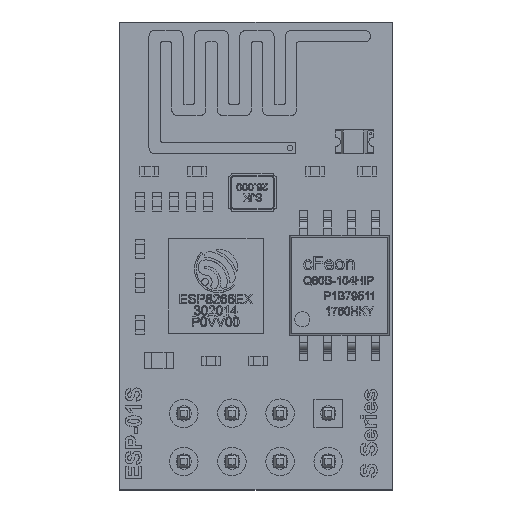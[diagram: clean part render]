
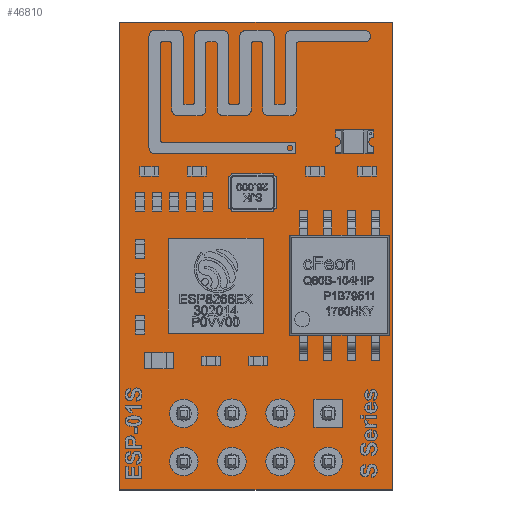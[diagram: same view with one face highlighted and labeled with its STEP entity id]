
A CAD part, top view. The second image highlights one B-rep face of the part: STEP entity #46810.
In plain terms, the highlighted planar face has unit normal (0, 0, 1).
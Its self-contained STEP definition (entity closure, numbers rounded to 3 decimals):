
#3326=FACE_BOUND('',#7650,.T.);
#3327=FACE_BOUND('',#7651,.T.);
#3328=FACE_BOUND('',#7652,.T.);
#3329=FACE_BOUND('',#7653,.T.);
#3330=FACE_BOUND('',#7654,.T.);
#3331=FACE_BOUND('',#7655,.T.);
#3332=FACE_BOUND('',#7656,.T.);
#3333=FACE_BOUND('',#7657,.T.);
#3434=CIRCLE('',#49832,0.4);
#3436=CIRCLE('',#49835,0.4);
#3438=CIRCLE('',#49838,0.4);
#3440=CIRCLE('',#49841,0.4);
#3442=CIRCLE('',#49844,0.4);
#3444=CIRCLE('',#49847,0.4);
#3446=CIRCLE('',#49850,0.4);
#3448=CIRCLE('',#49853,0.4);
#4842=FACE_OUTER_BOUND('',#7649,.T.);
#7649=EDGE_LOOP('',(#32217,#32218,#32219,#32220));
#7650=EDGE_LOOP('',(#32221));
#7651=EDGE_LOOP('',(#32222));
#7652=EDGE_LOOP('',(#32223));
#7653=EDGE_LOOP('',(#32224));
#7654=EDGE_LOOP('',(#32225));
#7655=EDGE_LOOP('',(#32226));
#7656=EDGE_LOOP('',(#32227));
#7657=EDGE_LOOP('',(#32228));
#10898=LINE('',#61480,#15391);
#10901=LINE('',#61486,#15394);
#10904=LINE('',#61492,#15397);
#10907=LINE('',#61496,#15400);
#15391=VECTOR('',#52835,10.);
#15394=VECTOR('',#52840,10.);
#15397=VECTOR('',#52845,10.);
#15400=VECTOR('',#52850,10.);
#19634=VERTEX_POINT('',#61426);
#19636=VERTEX_POINT('',#61432);
#19638=VERTEX_POINT('',#61438);
#19640=VERTEX_POINT('',#61444);
#19642=VERTEX_POINT('',#61450);
#19644=VERTEX_POINT('',#61456);
#19646=VERTEX_POINT('',#61462);
#19648=VERTEX_POINT('',#61468);
#19652=VERTEX_POINT('',#61477);
#19653=VERTEX_POINT('',#61479);
#19655=VERTEX_POINT('',#61485);
#19657=VERTEX_POINT('',#61491);
#24520=EDGE_CURVE('',#19634,#19634,#3434,.T.);
#24523=EDGE_CURVE('',#19636,#19636,#3436,.T.);
#24526=EDGE_CURVE('',#19638,#19638,#3438,.T.);
#24529=EDGE_CURVE('',#19640,#19640,#3440,.T.);
#24532=EDGE_CURVE('',#19642,#19642,#3442,.T.);
#24535=EDGE_CURVE('',#19644,#19644,#3444,.T.);
#24538=EDGE_CURVE('',#19646,#19646,#3446,.T.);
#24541=EDGE_CURVE('',#19648,#19648,#3448,.T.);
#24546=EDGE_CURVE('',#19653,#19652,#10898,.T.);
#24549=EDGE_CURVE('',#19655,#19653,#10901,.T.);
#24552=EDGE_CURVE('',#19657,#19655,#10904,.T.);
#24555=EDGE_CURVE('',#19652,#19657,#10907,.T.);
#32217=ORIENTED_EDGE('',*,*,#24555,.T.);
#32218=ORIENTED_EDGE('',*,*,#24552,.T.);
#32219=ORIENTED_EDGE('',*,*,#24549,.T.);
#32220=ORIENTED_EDGE('',*,*,#24546,.T.);
#32221=ORIENTED_EDGE('',*,*,#24541,.T.);
#32222=ORIENTED_EDGE('',*,*,#24538,.T.);
#32223=ORIENTED_EDGE('',*,*,#24535,.T.);
#32224=ORIENTED_EDGE('',*,*,#24532,.T.);
#32225=ORIENTED_EDGE('',*,*,#24529,.T.);
#32226=ORIENTED_EDGE('',*,*,#24526,.T.);
#32227=ORIENTED_EDGE('',*,*,#24523,.T.);
#32228=ORIENTED_EDGE('',*,*,#24520,.T.);
#45263=PLANE('',#49859);
#46810=ADVANCED_FACE('',(#4842,#3326,#3327,#3328,#3329,#3330,#3331,#3332,
#3333),#45263,.T.);
#49832=AXIS2_PLACEMENT_3D('',#61427,#52777,#52778);
#49835=AXIS2_PLACEMENT_3D('',#61433,#52784,#52785);
#49838=AXIS2_PLACEMENT_3D('',#61439,#52791,#52792);
#49841=AXIS2_PLACEMENT_3D('',#61445,#52798,#52799);
#49844=AXIS2_PLACEMENT_3D('',#61451,#52805,#52806);
#49847=AXIS2_PLACEMENT_3D('',#61457,#52812,#52813);
#49850=AXIS2_PLACEMENT_3D('',#61463,#52819,#52820);
#49853=AXIS2_PLACEMENT_3D('',#61469,#52826,#52827);
#49859=AXIS2_PLACEMENT_3D('',#61497,#52851,#52852);
#52777=DIRECTION('center_axis',(0.,0.,-1.));
#52778=DIRECTION('ref_axis',(1.,0.,0.));
#52784=DIRECTION('center_axis',(0.,0.,-1.));
#52785=DIRECTION('ref_axis',(1.,0.,0.));
#52791=DIRECTION('center_axis',(0.,0.,-1.));
#52792=DIRECTION('ref_axis',(1.,0.,0.));
#52798=DIRECTION('center_axis',(0.,0.,-1.));
#52799=DIRECTION('ref_axis',(1.,0.,0.));
#52805=DIRECTION('center_axis',(0.,0.,-1.));
#52806=DIRECTION('ref_axis',(1.,0.,0.));
#52812=DIRECTION('center_axis',(0.,0.,-1.));
#52813=DIRECTION('ref_axis',(1.,0.,0.));
#52819=DIRECTION('center_axis',(0.,0.,-1.));
#52820=DIRECTION('ref_axis',(1.,0.,0.));
#52826=DIRECTION('center_axis',(0.,0.,-1.));
#52827=DIRECTION('ref_axis',(1.,0.,0.));
#52835=DIRECTION('',(0.,-1.,0.));
#52840=DIRECTION('',(-1.,0.,0.));
#52845=DIRECTION('',(0.,1.,0.));
#52850=DIRECTION('',(1.,0.,0.));
#52851=DIRECTION('center_axis',(0.,0.,1.));
#52852=DIRECTION('ref_axis',(1.,0.,0.));
#61426=CARTESIAN_POINT('',(-11.41,1.5,1.));
#61427=CARTESIAN_POINT('Origin',(-11.01,1.5,1.));
#61432=CARTESIAN_POINT('',(-3.79,4.05,1.));
#61433=CARTESIAN_POINT('Origin',(-3.39,4.05,1.));
#61438=CARTESIAN_POINT('',(-6.33,1.5,1.));
#61439=CARTESIAN_POINT('Origin',(-5.93,1.5,1.));
#61444=CARTESIAN_POINT('',(-8.87,1.5,1.));
#61445=CARTESIAN_POINT('Origin',(-8.47,1.5,1.));
#61450=CARTESIAN_POINT('',(-8.87,4.052,1.));
#61451=CARTESIAN_POINT('Origin',(-8.47,4.052,1.));
#61456=CARTESIAN_POINT('',(-6.33,4.052,1.));
#61457=CARTESIAN_POINT('Origin',(-5.93,4.052,1.));
#61462=CARTESIAN_POINT('',(-11.41,4.04,1.));
#61463=CARTESIAN_POINT('Origin',(-11.01,4.04,1.));
#61468=CARTESIAN_POINT('',(-3.79,1.5,1.));
#61469=CARTESIAN_POINT('Origin',(-3.39,1.5,1.));
#61477=CARTESIAN_POINT('',(-14.4,0.,1.));
#61479=CARTESIAN_POINT('',(-14.4,24.7,1.));
#61480=CARTESIAN_POINT('',(-14.4,0.,1.));
#61485=CARTESIAN_POINT('',(0.,24.7,1.));
#61486=CARTESIAN_POINT('',(-14.4,24.7,1.));
#61491=CARTESIAN_POINT('',(0.,0.,1.));
#61492=CARTESIAN_POINT('',(0.,24.7,1.));
#61496=CARTESIAN_POINT('',(-14.4,0.,1.));
#61497=CARTESIAN_POINT('Origin',(-7.2,12.35,1.));
